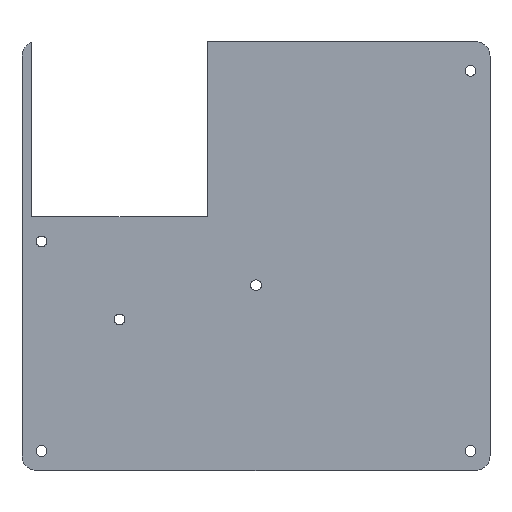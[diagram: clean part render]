
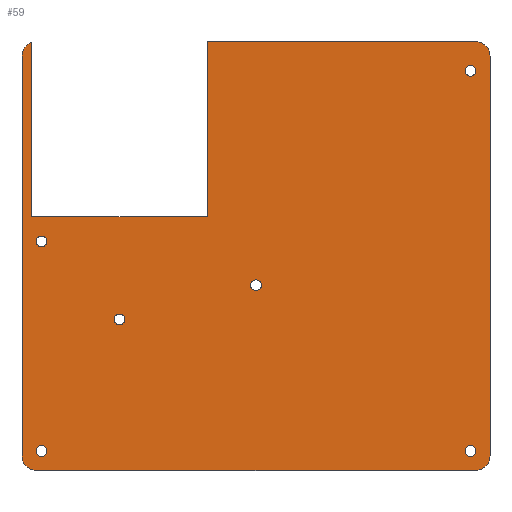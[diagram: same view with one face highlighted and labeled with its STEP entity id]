
A CAD part, top view. The second image highlights one B-rep face of the part: STEP entity #59.
In plain terms, the highlighted planar face has unit normal (0, 0, 1).
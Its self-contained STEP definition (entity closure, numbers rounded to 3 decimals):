
#21 = EDGE_CURVE('',#22,#24,#26,.T.);
#22 = VERTEX_POINT('',#23);
#23 = CARTESIAN_POINT('',(-48.,-75.,-8.));
#24 = VERTEX_POINT('',#25);
#25 = CARTESIAN_POINT('',(-45.,-78.,-8.));
#26 = CIRCLE('',#27,3.);
#27 = AXIS2_PLACEMENT_3D('',#28,#29,#30);
#28 = CARTESIAN_POINT('',(-45.,-75.,-8.));
#29 = DIRECTION('',(0.,0.,1.));
#30 = DIRECTION('',(1.,0.,0.));
#59 = ADVANCED_FACE('',(#60,#144,#155,#166,#177,#188,#199),#210,.T.);
#60 = FACE_BOUND('',#61,.T.);
#61 = EDGE_LOOP('',(#62,#70,#71,#79,#88,#96,#105,#113,#121,#129,#137));
#62 = ORIENTED_EDGE('',*,*,#63,.F.);
#63 = EDGE_CURVE('',#22,#64,#66,.T.);
#64 = VERTEX_POINT('',#65);
#65 = CARTESIAN_POINT('',(-48.,7.,-8.));
#66 = LINE('',#67,#68);
#67 = CARTESIAN_POINT('',(-48.,-75.,-8.));
#68 = VECTOR('',#69,1.);
#69 = DIRECTION('',(0.,1.,0.));
#70 = ORIENTED_EDGE('',*,*,#21,.T.);
#71 = ORIENTED_EDGE('',*,*,#72,.T.);
#72 = EDGE_CURVE('',#24,#73,#75,.T.);
#73 = VERTEX_POINT('',#74);
#74 = CARTESIAN_POINT('',(45.,-78.,-8.));
#75 = LINE('',#76,#77);
#76 = CARTESIAN_POINT('',(-45.,-78.,-8.));
#77 = VECTOR('',#78,1.);
#78 = DIRECTION('',(1.,0.,0.));
#79 = ORIENTED_EDGE('',*,*,#80,.T.);
#80 = EDGE_CURVE('',#73,#81,#83,.T.);
#81 = VERTEX_POINT('',#82);
#82 = CARTESIAN_POINT('',(48.,-75.,-8.));
#83 = CIRCLE('',#84,3.);
#84 = AXIS2_PLACEMENT_3D('',#85,#86,#87);
#85 = CARTESIAN_POINT('',(45.,-75.,-8.));
#86 = DIRECTION('',(0.,0.,1.));
#87 = DIRECTION('',(1.,0.,0.));
#88 = ORIENTED_EDGE('',*,*,#89,.T.);
#89 = EDGE_CURVE('',#81,#90,#92,.T.);
#90 = VERTEX_POINT('',#91);
#91 = CARTESIAN_POINT('',(48.,7.,-8.));
#92 = LINE('',#93,#94);
#93 = CARTESIAN_POINT('',(48.,-75.,-8.));
#94 = VECTOR('',#95,1.);
#95 = DIRECTION('',(0.,1.,0.));
#96 = ORIENTED_EDGE('',*,*,#97,.T.);
#97 = EDGE_CURVE('',#90,#98,#100,.T.);
#98 = VERTEX_POINT('',#99);
#99 = CARTESIAN_POINT('',(45.,10.,-8.));
#100 = CIRCLE('',#101,3.);
#101 = AXIS2_PLACEMENT_3D('',#102,#103,#104);
#102 = CARTESIAN_POINT('',(45.,7.,-8.));
#103 = DIRECTION('',(0.,0.,1.));
#104 = DIRECTION('',(1.,0.,0.));
#105 = ORIENTED_EDGE('',*,*,#106,.F.);
#106 = EDGE_CURVE('',#107,#98,#109,.T.);
#107 = VERTEX_POINT('',#108);
#108 = CARTESIAN_POINT('',(-10.,10.,-8.));
#109 = LINE('',#110,#111);
#110 = CARTESIAN_POINT('',(-45.,10.,-8.));
#111 = VECTOR('',#112,1.);
#112 = DIRECTION('',(1.,0.,0.));
#113 = ORIENTED_EDGE('',*,*,#114,.F.);
#114 = EDGE_CURVE('',#115,#107,#117,.T.);
#115 = VERTEX_POINT('',#116);
#116 = CARTESIAN_POINT('',(-10.,-26.,-8.));
#117 = LINE('',#118,#119);
#118 = CARTESIAN_POINT('',(-10.,-30.,-8.));
#119 = VECTOR('',#120,1.);
#120 = DIRECTION('',(0.,1.,0.));
#121 = ORIENTED_EDGE('',*,*,#122,.T.);
#122 = EDGE_CURVE('',#115,#123,#125,.T.);
#123 = VERTEX_POINT('',#124);
#124 = CARTESIAN_POINT('',(-46.,-26.,-8.));
#125 = LINE('',#126,#127);
#126 = CARTESIAN_POINT('',(-23.,-26.,-8.));
#127 = VECTOR('',#128,1.);
#128 = DIRECTION('',(-1.,0.,0.));
#129 = ORIENTED_EDGE('',*,*,#130,.T.);
#130 = EDGE_CURVE('',#123,#131,#133,.T.);
#131 = VERTEX_POINT('',#132);
#132 = CARTESIAN_POINT('',(-46.,9.828,-8.));
#133 = LINE('',#134,#135);
#134 = CARTESIAN_POINT('',(-46.,-30.,-8.));
#135 = VECTOR('',#136,1.);
#136 = DIRECTION('',(0.,1.,0.));
#137 = ORIENTED_EDGE('',*,*,#138,.T.);
#138 = EDGE_CURVE('',#131,#64,#139,.T.);
#139 = CIRCLE('',#140,3.);
#140 = AXIS2_PLACEMENT_3D('',#141,#142,#143);
#141 = CARTESIAN_POINT('',(-45.,7.,-8.));
#142 = DIRECTION('',(0.,0.,1.));
#143 = DIRECTION('',(1.,0.,0.));
#144 = FACE_BOUND('',#145,.T.);
#145 = EDGE_LOOP('',(#146));
#146 = ORIENTED_EDGE('',*,*,#147,.F.);
#147 = EDGE_CURVE('',#148,#148,#150,.T.);
#148 = VERTEX_POINT('',#149);
#149 = CARTESIAN_POINT('',(-42.9,-74.,-8.));
#150 = CIRCLE('',#151,1.1);
#151 = AXIS2_PLACEMENT_3D('',#152,#153,#154);
#152 = CARTESIAN_POINT('',(-44.,-74.,-8.));
#153 = DIRECTION('',(0.,0.,1.));
#154 = DIRECTION('',(1.,0.,0.));
#155 = FACE_BOUND('',#156,.T.);
#156 = EDGE_LOOP('',(#157));
#157 = ORIENTED_EDGE('',*,*,#158,.F.);
#158 = EDGE_CURVE('',#159,#159,#161,.T.);
#159 = VERTEX_POINT('',#160);
#160 = CARTESIAN_POINT('',(-26.9,-47.,-8.));
#161 = CIRCLE('',#162,1.1);
#162 = AXIS2_PLACEMENT_3D('',#163,#164,#165);
#163 = CARTESIAN_POINT('',(-28.,-47.,-8.));
#164 = DIRECTION('',(0.,0.,1.));
#165 = DIRECTION('',(1.,0.,0.));
#166 = FACE_BOUND('',#167,.T.);
#167 = EDGE_LOOP('',(#168));
#168 = ORIENTED_EDGE('',*,*,#169,.F.);
#169 = EDGE_CURVE('',#170,#170,#172,.T.);
#170 = VERTEX_POINT('',#171);
#171 = CARTESIAN_POINT('',(45.1,-74.,-8.));
#172 = CIRCLE('',#173,1.1);
#173 = AXIS2_PLACEMENT_3D('',#174,#175,#176);
#174 = CARTESIAN_POINT('',(44.,-74.,-8.));
#175 = DIRECTION('',(0.,0.,1.));
#176 = DIRECTION('',(1.,0.,0.));
#177 = FACE_BOUND('',#178,.T.);
#178 = EDGE_LOOP('',(#179));
#179 = ORIENTED_EDGE('',*,*,#180,.F.);
#180 = EDGE_CURVE('',#181,#181,#183,.T.);
#181 = VERTEX_POINT('',#182);
#182 = CARTESIAN_POINT('',(1.1,-40.,-8.));
#183 = CIRCLE('',#184,1.1);
#184 = AXIS2_PLACEMENT_3D('',#185,#186,#187);
#185 = CARTESIAN_POINT('',(0.,-40.,-8.));
#186 = DIRECTION('',(0.,0.,1.));
#187 = DIRECTION('',(1.,0.,0.));
#188 = FACE_BOUND('',#189,.T.);
#189 = EDGE_LOOP('',(#190));
#190 = ORIENTED_EDGE('',*,*,#191,.F.);
#191 = EDGE_CURVE('',#192,#192,#194,.T.);
#192 = VERTEX_POINT('',#193);
#193 = CARTESIAN_POINT('',(-42.9,-31.,-8.));
#194 = CIRCLE('',#195,1.1);
#195 = AXIS2_PLACEMENT_3D('',#196,#197,#198);
#196 = CARTESIAN_POINT('',(-44.,-31.,-8.));
#197 = DIRECTION('',(0.,0.,1.));
#198 = DIRECTION('',(1.,0.,0.));
#199 = FACE_BOUND('',#200,.T.);
#200 = EDGE_LOOP('',(#201));
#201 = ORIENTED_EDGE('',*,*,#202,.F.);
#202 = EDGE_CURVE('',#203,#203,#205,.T.);
#203 = VERTEX_POINT('',#204);
#204 = CARTESIAN_POINT('',(45.1,4.,-8.));
#205 = CIRCLE('',#206,1.1);
#206 = AXIS2_PLACEMENT_3D('',#207,#208,#209);
#207 = CARTESIAN_POINT('',(44.,4.,-8.));
#208 = DIRECTION('',(0.,0.,1.));
#209 = DIRECTION('',(1.,0.,0.));
#210 = PLANE('',#211);
#211 = AXIS2_PLACEMENT_3D('',#212,#213,#214);
#212 = CARTESIAN_POINT('',(0.,-34.,-8.));
#213 = DIRECTION('',(0.,0.,1.));
#214 = DIRECTION('',(1.,0.,0.));
